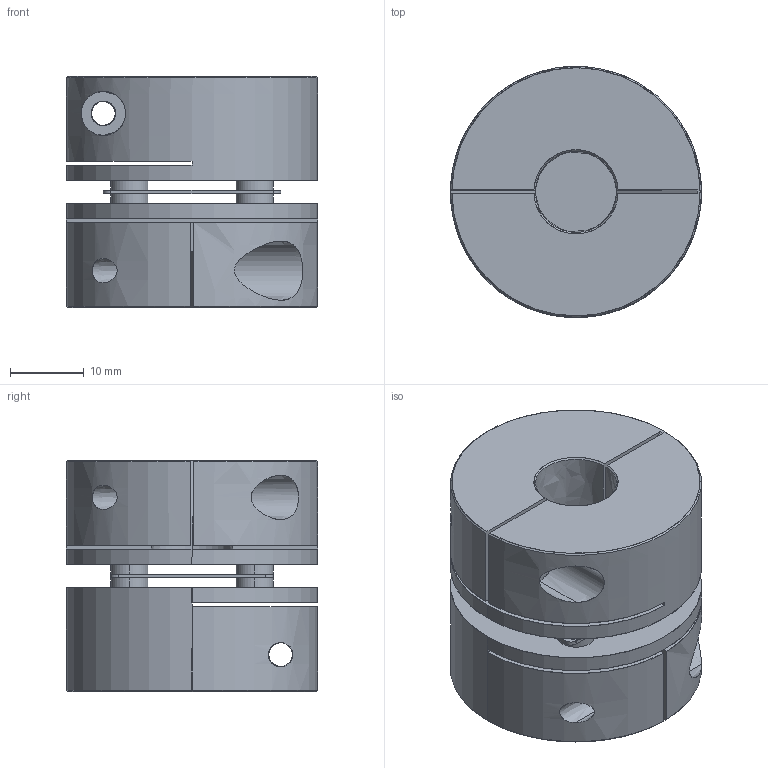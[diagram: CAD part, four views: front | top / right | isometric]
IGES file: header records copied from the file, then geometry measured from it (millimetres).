
Start section: SolidWorks IGES file using analytic representation for surfaces
Bounding box: 34 x 34 x 31.3 mm (x, y, z)
Surface area: 11154.5 mm2 (no closed solid volume)
Topology: 0 solids, 0 shells, 87 faces, 1961 edges, 1961 vertices
Faces by surface type: revolution 54, bspline 33
